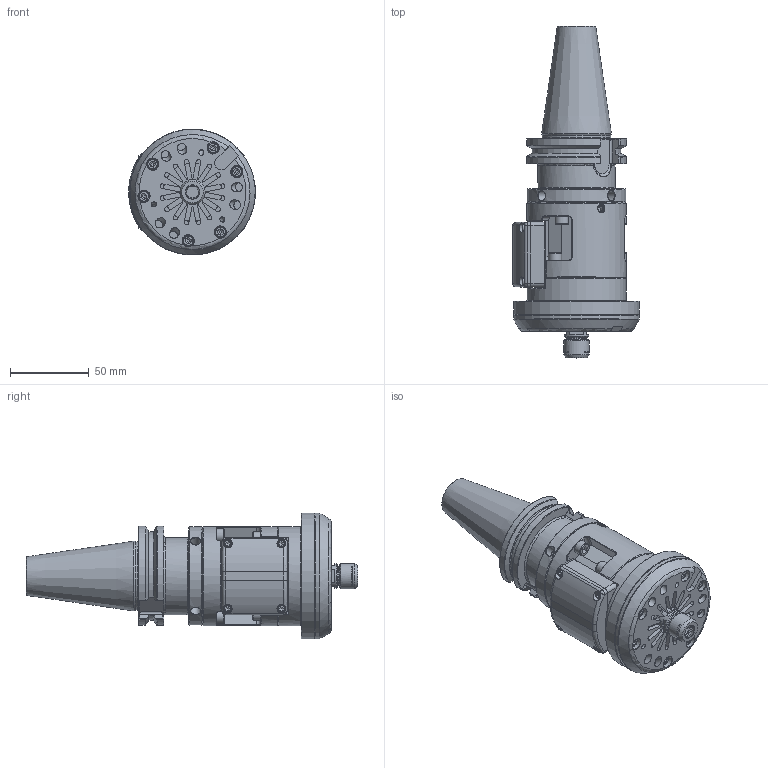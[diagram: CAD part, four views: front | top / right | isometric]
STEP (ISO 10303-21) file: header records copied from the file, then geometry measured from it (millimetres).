
FILE_DESCRIPTION (( 'STEP AP214' ), '1' );
FILE_NAME ('TJS HPC V4 SK40.STEP', '2025-06-10T13:25:32', ( 'pc' ), ( '' ), 'SwSTEP 2.0', 'SolidWorks 2024', '' );
FILE_SCHEMA (( 'AUTOMOTIVE_DESIGN' ));
Length unit declared in the file: millimetre
Products named in the file (1): TJS HPC V4 SK40
Bounding box: 80.35 x 210.9 x 79.82 mm (x, y, z)
Volume: 312637.3 mm3; surface area: 115181.4 mm2
Topology: 31 solids, 31 shells, 1581 faces, 3808 edges, 2340 vertices
Faces by surface type: plane 788, cylinder 373, cone 236, torus 122, bspline 62
Full cylindrical faces by diameter (mm): 2.5 x6, 3 x3, 3.3 x12, 4 x6, 4.2 x11, 4.3 x8, 4.5 x5, 5 x22, 5.5 x3, 5.8 x3, 6 x11, 6.4 x4, 6.5 x1, 7 x6, 7.4 x6, 7.5 x3, 7.65 x1, 8 x3, 8.5 x6, 10 x1, 11.21 x1, 11.3 x1, 12 x1, 12.2 x1, 12.3 x1, 13 x1, 13.2 x1, 13.5 x1, 14 x1, 15.5 x1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
Entity records: 54223 total; most frequent: CARTESIAN_POINT 19633, DIRECTION 7031, ORIENTED_EDGE 6630, EDGE_CURVE 3315, AXIS2_PLACEMENT_3D 2624, VERTEX_POINT 2213, EDGE_LOOP 2110, FACE_OUTER_BOUND 1786
